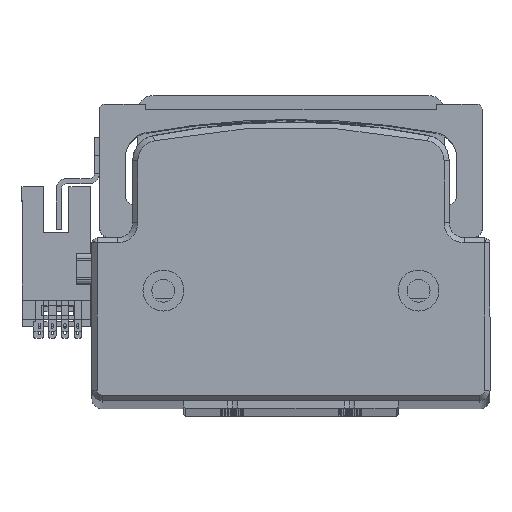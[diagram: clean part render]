
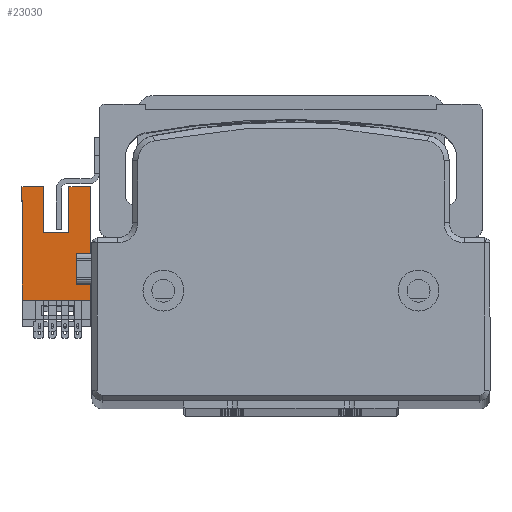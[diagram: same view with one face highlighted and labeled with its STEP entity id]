
A CAD part, top view. The second image highlights one B-rep face of the part: STEP entity #23030.
In plain terms, the highlighted planar face has unit normal (0, 0, 1) as drawn and (1, 0, 0) by its records, which use the part's own axes.
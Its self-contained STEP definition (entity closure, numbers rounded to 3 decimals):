
#817 = CARTESIAN_POINT ( 'NONE',  ( 3.2, 6.55, 22.2 ) ) ;
#1381 = EDGE_CURVE ( 'NONE', #27964, #24075, #45053, .T. ) ;
#1552 = VECTOR ( 'NONE', #24640, 1000. ) ;
#1932 = DIRECTION ( 'NONE',  ( 0., 0., 1. ) ) ;
#2448 = LINE ( 'NONE', #26318, #42569 ) ;
#2771 = LINE ( 'NONE', #43968, #1552 ) ;
#3101 = DIRECTION ( 'NONE',  ( 0., 0., 1. ) ) ;
#3209 = LINE ( 'NONE', #9045, #43322 ) ;
#5695 = VECTOR ( 'NONE', #3101, 1000. ) ;
#5930 = VERTEX_POINT ( 'NONE', #29647 ) ;
#5955 = VERTEX_POINT ( 'NONE', #21751 ) ;
#6086 = CARTESIAN_POINT ( 'NONE',  ( 3.2, -2.65, 13.2 ) ) ;
#6295 = CARTESIAN_POINT ( 'NONE',  ( 3.2, 3.85, 0. ) ) ;
#7006 = ORIENTED_EDGE ( 'NONE', *, *, #1381, .T. ) ;
#7093 = VERTEX_POINT ( 'NONE', #46176 ) ;
#7145 = DIRECTION ( 'NONE',  ( 0., -1., 0. ) ) ;
#9045 = CARTESIAN_POINT ( 'NONE',  ( 3.2, 2.35, 13.2 ) ) ;
#9099 = CARTESIAN_POINT ( 'NONE',  ( 3.2, 6.55, 9.2 ) ) ;
#10957 = CARTESIAN_POINT ( 'NONE',  ( 3.2, -6.85, 0. ) ) ;
#11730 = ORIENTED_EDGE ( 'NONE', *, *, #44161, .T. ) ;
#12521 = EDGE_CURVE ( 'NONE', #17186, #18096, #36657, .T. ) ;
#13514 = EDGE_CURVE ( 'NONE', #5955, #28945, #46316, .T. ) ;
#13865 = VERTEX_POINT ( 'NONE', #41667 ) ;
#15601 = CARTESIAN_POINT ( 'NONE',  ( 3.2, -2.65, 22.2 ) ) ;
#16210 = CARTESIAN_POINT ( 'NONE',  ( 3.2, 3.85, 22.2 ) ) ;
#17115 = CARTESIAN_POINT ( 'NONE',  ( 3.2, 3.85, 0. ) ) ;
#17186 = VERTEX_POINT ( 'NONE', #34213 ) ;
#18096 = VERTEX_POINT ( 'NONE', #44028 ) ;
#18588 = ORIENTED_EDGE ( 'NONE', *, *, #39231, .T. ) ;
#18645 = EDGE_CURVE ( 'NONE', #47867, #27964, #2771, .T. ) ;
#18836 = DIRECTION ( 'NONE',  ( 0., 1., 0. ) ) ;
#19764 = VECTOR ( 'NONE', #18836, 1000. ) ;
#20010 = CARTESIAN_POINT ( 'NONE',  ( 3.2, 3.85, 9.2 ) ) ;
#20158 = AXIS2_PLACEMENT_3D ( 'NONE', #6295, #21979, #48997 ) ;
#21277 = VECTOR ( 'NONE', #37130, 1000. ) ;
#21751 = CARTESIAN_POINT ( 'NONE',  ( 3.2, 3.85, 3. ) ) ;
#21979 = DIRECTION ( 'NONE',  ( 1., 0., 0. ) ) ;
#22176 = LINE ( 'NONE', #41809, #19764 ) ;
#23030 = ADVANCED_FACE ( 'NONE', ( #48478 ), #44947, .T. ) ;
#23283 = DIRECTION ( 'NONE',  ( 0., 0., 1. ) ) ;
#23581 = DIRECTION ( 'NONE',  ( 0., 0., 1. ) ) ;
#24075 = VERTEX_POINT ( 'NONE', #41320 ) ;
#24628 = DIRECTION ( 'NONE',  ( 0., 1., 0. ) ) ;
#24640 = DIRECTION ( 'NONE',  ( 0., 0., 1. ) ) ;
#25321 = ORIENTED_EDGE ( 'NONE', *, *, #48595, .F. ) ;
#25851 = VERTEX_POINT ( 'NONE', #15601 ) ;
#26318 = CARTESIAN_POINT ( 'NONE',  ( 3.2, 6.55, 0. ) ) ;
#27960 = LINE ( 'NONE', #6086, #37057 ) ;
#27964 = VERTEX_POINT ( 'NONE', #817 ) ;
#28814 = EDGE_CURVE ( 'NONE', #5955, #5930, #22176, .T. ) ;
#28945 = VERTEX_POINT ( 'NONE', #20010 ) ;
#29241 = ORIENTED_EDGE ( 'NONE', *, *, #44205, .T. ) ;
#29286 = CARTESIAN_POINT ( 'NONE',  ( 3.2, -6.85, 9.2 ) ) ;
#29647 = CARTESIAN_POINT ( 'NONE',  ( 3.2, 6.55, 3. ) ) ;
#30176 = DIRECTION ( 'NONE',  ( 0., 0., 1. ) ) ;
#30985 = ORIENTED_EDGE ( 'NONE', *, *, #28814, .F. ) ;
#31031 = LINE ( 'NONE', #38222, #33478 ) ;
#31520 = LINE ( 'NONE', #29286, #21277 ) ;
#32072 = VECTOR ( 'NONE', #40123, 1000. ) ;
#33478 = VECTOR ( 'NONE', #7145, 1000. ) ;
#34213 = CARTESIAN_POINT ( 'NONE',  ( 3.2, -6.85, 0. ) ) ;
#34780 = VECTOR ( 'NONE', #43409, 1000. ) ;
#36060 = VECTOR ( 'NONE', #23283, 1000. ) ;
#36074 = ORIENTED_EDGE ( 'NONE', *, *, #42550, .F. ) ;
#36657 = LINE ( 'NONE', #10957, #5695 ) ;
#37057 = VECTOR ( 'NONE', #1932, 1000. ) ;
#37130 = DIRECTION ( 'NONE',  ( 0., 1., 0. ) ) ;
#38005 = ORIENTED_EDGE ( 'NONE', *, *, #12521, .F. ) ;
#38189 = ORIENTED_EDGE ( 'NONE', *, *, #18645, .T. ) ;
#38222 = CARTESIAN_POINT ( 'NONE',  ( 3.2, 3.85, 22.2 ) ) ;
#38403 = VECTOR ( 'NONE', #23581, 1000. ) ;
#38611 = ORIENTED_EDGE ( 'NONE', *, *, #13514, .T. ) ;
#39001 = CARTESIAN_POINT ( 'NONE',  ( 3.2, 2.35, 13.2 ) ) ;
#39231 = EDGE_CURVE ( 'NONE', #28945, #47867, #31520, .T. ) ;
#39823 = EDGE_LOOP ( 'NONE', ( #40563, #29241, #38005, #25321, #11730, #30985, #38611, #18588, #38189, #7006, #36074, #42978 ) ) ;
#40123 = DIRECTION ( 'NONE',  ( 0., -1., 0. ) ) ;
#40563 = ORIENTED_EDGE ( 'NONE', *, *, #44597, .T. ) ;
#41320 = CARTESIAN_POINT ( 'NONE',  ( 3.2, 2.35, 22.2 ) ) ;
#41667 = CARTESIAN_POINT ( 'NONE',  ( 3.2, -2.65, 13.2 ) ) ;
#41809 = CARTESIAN_POINT ( 'NONE',  ( 3.2, 3.85, 3. ) ) ;
#42366 = LINE ( 'NONE', #17115, #32072 ) ;
#42550 = EDGE_CURVE ( 'NONE', #7093, #24075, #48625, .T. ) ;
#42569 = VECTOR ( 'NONE', #30176, 1000. ) ;
#42886 = CARTESIAN_POINT ( 'NONE',  ( 3.2, 6.55, 0. ) ) ;
#42978 = ORIENTED_EDGE ( 'NONE', *, *, #50351, .F. ) ;
#43322 = VECTOR ( 'NONE', #24628, 1000. ) ;
#43409 = DIRECTION ( 'NONE',  ( 0., -1., 0. ) ) ;
#43968 = CARTESIAN_POINT ( 'NONE',  ( 3.2, 6.55, 0. ) ) ;
#44028 = CARTESIAN_POINT ( 'NONE',  ( 3.2, -6.85, 22.2 ) ) ;
#44161 = EDGE_CURVE ( 'NONE', #49074, #5930, #2448, .T. ) ;
#44205 = EDGE_CURVE ( 'NONE', #25851, #18096, #31031, .T. ) ;
#44597 = EDGE_CURVE ( 'NONE', #13865, #25851, #27960, .T. ) ;
#44947 = PLANE ( 'NONE',  #20158 ) ;
#45053 = LINE ( 'NONE', #16210, #34780 ) ;
#46176 = CARTESIAN_POINT ( 'NONE',  ( 3.2, 2.35, 13.2 ) ) ;
#46316 = LINE ( 'NONE', #50317, #36060 ) ;
#47867 = VERTEX_POINT ( 'NONE', #9099 ) ;
#48478 = FACE_OUTER_BOUND ( 'NONE', #39823, .T. ) ;
#48595 = EDGE_CURVE ( 'NONE', #49074, #17186, #42366, .T. ) ;
#48625 = LINE ( 'NONE', #39001, #38403 ) ;
#48997 = DIRECTION ( 'NONE',  ( 0., 0., -1. ) ) ;
#49074 = VERTEX_POINT ( 'NONE', #42886 ) ;
#50317 = CARTESIAN_POINT ( 'NONE',  ( 3.2, 3.85, 0. ) ) ;
#50351 = EDGE_CURVE ( 'NONE', #13865, #7093, #3209, .T. ) ;
